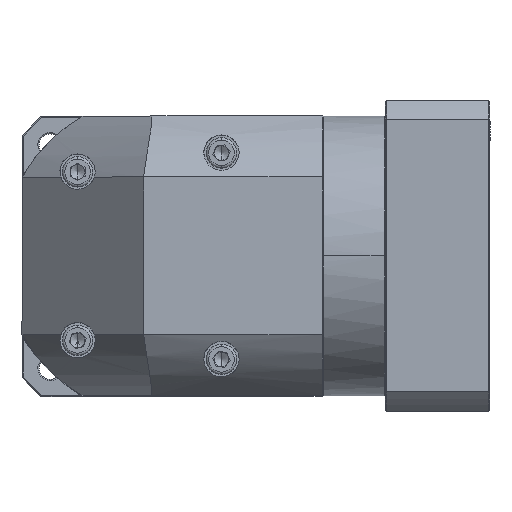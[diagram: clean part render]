
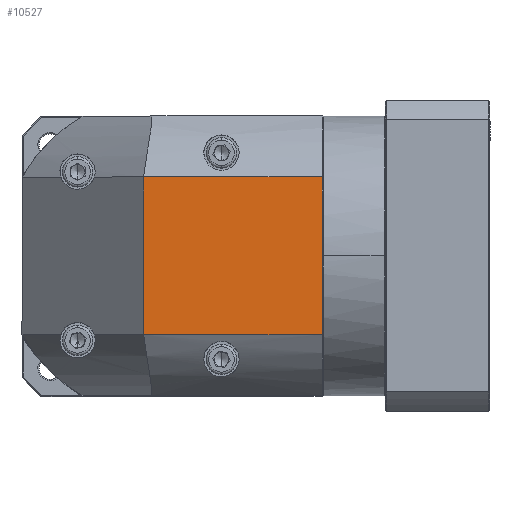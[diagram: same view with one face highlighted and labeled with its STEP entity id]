
A CAD part, top view. The second image highlights one B-rep face of the part: STEP entity #10527.
In plain terms, the highlighted planar face has unit normal (0, 0, 1).
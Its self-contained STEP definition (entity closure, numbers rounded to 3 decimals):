
#928 = DIRECTION ( 'NONE',  ( 0., 0., -1. ) ) ;
#10527 = ADVANCED_FACE ( 'NONE', ( #59203 ), #19627, .F. ) ;
#17312 = EDGE_CURVE ( 'NONE', #116074, #103644, #118268, .T. ) ;
#19571 = CARTESIAN_POINT ( 'NONE',  ( 43.366, 113.354, 89.797 ) ) ;
#19627 = PLANE ( 'NONE',  #109865 ) ;
#26854 = VECTOR ( 'NONE', #77914, 1000. ) ;
#31894 = ORIENTED_EDGE ( 'NONE', *, *, #52298, .F. ) ;
#33015 = ORIENTED_EDGE ( 'NONE', *, *, #124408, .F. ) ;
#39649 = VERTEX_POINT ( 'NONE', #70949 ) ;
#50955 = ORIENTED_EDGE ( 'NONE', *, *, #84906, .F. ) ;
#52298 = EDGE_CURVE ( 'NONE', #103644, #72690, #55665, .T. ) ;
#52791 = DIRECTION ( 'NONE',  ( 0., 1., 0. ) ) ;
#54524 = CARTESIAN_POINT ( 'NONE',  ( 116.766, 48.555, 89.797 ) ) ;
#55665 = LINE ( 'NONE', #72612, #70549 ) ;
#55674 = CARTESIAN_POINT ( 'NONE',  ( -6.634, 113.354, 89.797 ) ) ;
#59203 = FACE_OUTER_BOUND ( 'NONE', #91145, .T. ) ;
#64661 = CARTESIAN_POINT ( 'NONE',  ( 116.766, 113.354, 89.797 ) ) ;
#69251 = VECTOR ( 'NONE', #52791, 1000. ) ;
#70549 = VECTOR ( 'NONE', #115459, 1000. ) ;
#70949 = CARTESIAN_POINT ( 'NONE',  ( 43.366, 48.555, 89.797 ) ) ;
#70978 = LINE ( 'NONE', #110161, #127572 ) ;
#72612 = CARTESIAN_POINT ( 'NONE',  ( 116.766, 138.455, 89.797 ) ) ;
#72690 = VERTEX_POINT ( 'NONE', #54524 ) ;
#73558 = ORIENTED_EDGE ( 'NONE', *, *, #17312, .F. ) ;
#77914 = DIRECTION ( 'NONE',  ( 1., 0., 0. ) ) ;
#84906 = EDGE_CURVE ( 'NONE', #72690, #39649, #70978, .T. ) ;
#91145 = EDGE_LOOP ( 'NONE', ( #73558, #33015, #50955, #31894 ) ) ;
#94684 = CARTESIAN_POINT ( 'NONE',  ( 43.366, 138.455, 89.797 ) ) ;
#102565 = LINE ( 'NONE', #94684, #69251 ) ;
#103644 = VERTEX_POINT ( 'NONE', #64661 ) ;
#106020 = CARTESIAN_POINT ( 'NONE',  ( 50.866, 80.955, 89.797 ) ) ;
#109865 = AXIS2_PLACEMENT_3D ( 'NONE', #106020, #928, #127802 ) ;
#110161 = CARTESIAN_POINT ( 'NONE',  ( -6.634, 48.555, 89.797 ) ) ;
#115459 = DIRECTION ( 'NONE',  ( 0., -1., 0. ) ) ;
#116074 = VERTEX_POINT ( 'NONE', #19571 ) ;
#118268 = LINE ( 'NONE', #55674, #26854 ) ;
#124408 = EDGE_CURVE ( 'NONE', #39649, #116074, #102565, .T. ) ;
#127572 = VECTOR ( 'NONE', #130123, 1000. ) ;
#127802 = DIRECTION ( 'NONE',  ( 0., -1., 0. ) ) ;
#130123 = DIRECTION ( 'NONE',  ( -1., 0., 0. ) ) ;
